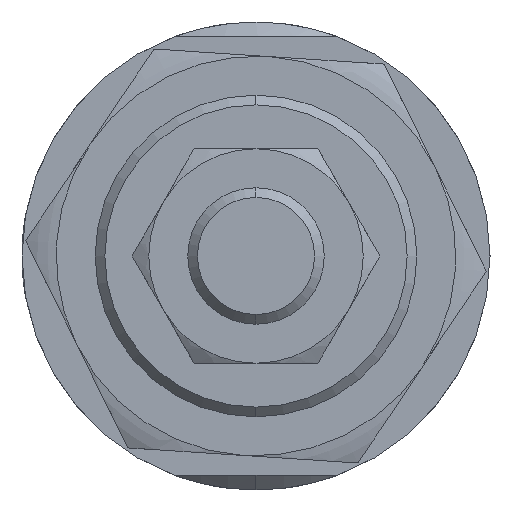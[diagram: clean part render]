
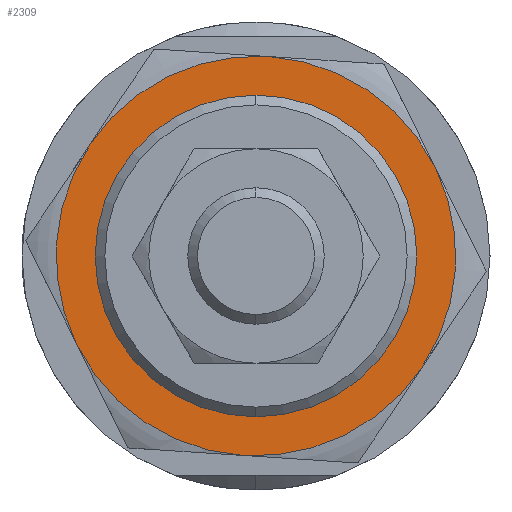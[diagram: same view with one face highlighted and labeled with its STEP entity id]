
A CAD part, left-side view. The second image highlights one B-rep face of the part: STEP entity #2309.
In plain terms, the highlighted planar face has unit normal (-1, 0, 0) as drawn and (0, 0, -1) by its records, which use the part's own axes.
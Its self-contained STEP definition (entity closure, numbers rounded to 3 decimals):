
#35 = EDGE_LOOP ( 'NONE', ( #1514, #620 ) ) ;
#42 = CARTESIAN_POINT ( 'NONE',  ( -15.5, 0., -5.5 ) ) ;
#47 = CARTESIAN_POINT ( 'NONE',  ( 15.5, 0., -5.5 ) ) ;
#100 = VERTEX_POINT ( 'NONE', #2006 ) ;
#140 = ORIENTED_EDGE ( 'NONE', *, *, #1425, .F. ) ;
#217 = DIRECTION ( 'NONE',  ( 0., 0., 1. ) ) ;
#291 = AXIS2_PLACEMENT_3D ( 'NONE', #2937, #1874, #2588 ) ;
#450 = DIRECTION ( 'NONE',  ( 0., 0., 1. ) ) ;
#469 = AXIS2_PLACEMENT_3D ( 'NONE', #631, #450, #2542 ) ;
#476 = EDGE_CURVE ( 'NONE', #1783, #1816, #938, .T. ) ;
#520 = CIRCLE ( 'NONE', #893, 20.5 ) ;
#529 = CIRCLE ( 'NONE', #3352, 20.5 ) ;
#534 = DIRECTION ( 'NONE',  ( 1., 0., 0. ) ) ;
#586 = PLANE ( 'NONE',  #2820 ) ;
#611 = CARTESIAN_POINT ( 'NONE',  ( 0., 0., -5.5 ) ) ;
#620 = ORIENTED_EDGE ( 'NONE', *, *, #476, .T. ) ;
#631 = CARTESIAN_POINT ( 'NONE',  ( 0., 0., -5.5 ) ) ;
#641 = CARTESIAN_POINT ( 'NONE',  ( -10.25, -17.754, -5.5 ) ) ;
#643 = DIRECTION ( 'NONE',  ( 0., 0., 1. ) ) ;
#651 = EDGE_CURVE ( 'NONE', #1816, #1783, #709, .T. ) ;
#653 = DIRECTION ( 'NONE',  ( 1., 0., 0. ) ) ;
#709 = CIRCLE ( 'NONE', #291, 15.5 ) ;
#739 = DIRECTION ( 'NONE',  ( 1., 0., 0. ) ) ;
#745 = CARTESIAN_POINT ( 'NONE',  ( 10.25, -17.754, -5.5 ) ) ;
#823 = DIRECTION ( 'NONE',  ( 0., 0., 1. ) ) ;
#833 = DIRECTION ( 'NONE',  ( 0., 0., 1. ) ) ;
#891 = CARTESIAN_POINT ( 'NONE',  ( 0., 0., -5.5 ) ) ;
#893 = AXIS2_PLACEMENT_3D ( 'NONE', #3196, #823, #653 ) ;
#927 = EDGE_CURVE ( 'NONE', #1307, #100, #1915, .T. ) ;
#938 = CIRCLE ( 'NONE', #469, 15.5 ) ;
#964 = CIRCLE ( 'NONE', #1007, 20.5 ) ;
#984 = VERTEX_POINT ( 'NONE', #641 ) ;
#1007 = AXIS2_PLACEMENT_3D ( 'NONE', #1862, #833, #3261 ) ;
#1051 = DIRECTION ( 'NONE',  ( 0., 0., 1. ) ) ;
#1103 = FACE_OUTER_BOUND ( 'NONE', #1675, .T. ) ;
#1198 = VERTEX_POINT ( 'NONE', #745 ) ;
#1263 = EDGE_CURVE ( 'NONE', #100, #984, #520, .T. ) ;
#1307 = VERTEX_POINT ( 'NONE', #2630 ) ;
#1322 = CARTESIAN_POINT ( 'NONE',  ( 10.25, 17.754, -5.5 ) ) ;
#1395 = ORIENTED_EDGE ( 'NONE', *, *, #2134, .F. ) ;
#1425 = EDGE_CURVE ( 'NONE', #1873, #1599, #529, .T. ) ;
#1514 = ORIENTED_EDGE ( 'NONE', *, *, #651, .T. ) ;
#1539 = CARTESIAN_POINT ( 'NONE',  ( 20.5, 0., -5.5 ) ) ;
#1599 = VERTEX_POINT ( 'NONE', #1322 ) ;
#1675 = EDGE_LOOP ( 'NONE', ( #140, #1756, #1395, #2551, #1884, #2084 ) ) ;
#1678 = CARTESIAN_POINT ( 'NONE',  ( 0., 0., -5.5 ) ) ;
#1756 = ORIENTED_EDGE ( 'NONE', *, *, #1972, .F. ) ;
#1783 = VERTEX_POINT ( 'NONE', #42 ) ;
#1798 = AXIS2_PLACEMENT_3D ( 'NONE', #1678, #643, #2906 ) ;
#1816 = VERTEX_POINT ( 'NONE', #47 ) ;
#1862 = CARTESIAN_POINT ( 'NONE',  ( 0., 0., -5.5 ) ) ;
#1873 = VERTEX_POINT ( 'NONE', #1539 ) ;
#1874 = DIRECTION ( 'NONE',  ( 0., 0., 1. ) ) ;
#1884 = ORIENTED_EDGE ( 'NONE', *, *, #927, .F. ) ;
#1915 = CIRCLE ( 'NONE', #2257, 20.5 ) ;
#1919 = FACE_BOUND ( 'NONE', #35, .T. ) ;
#1936 = DIRECTION ( 'NONE',  ( 1., 0., 0. ) ) ;
#1972 = EDGE_CURVE ( 'NONE', #1198, #1873, #3137, .T. ) ;
#2006 = CARTESIAN_POINT ( 'NONE',  ( -20.5, 0., -5.5 ) ) ;
#2084 = ORIENTED_EDGE ( 'NONE', *, *, #3251, .F. ) ;
#2091 = AXIS2_PLACEMENT_3D ( 'NONE', #891, #2826, #2928 ) ;
#2112 = CARTESIAN_POINT ( 'NONE',  ( 0., 0., -5.5 ) ) ;
#2134 = EDGE_CURVE ( 'NONE', #984, #1198, #2372, .T. ) ;
#2257 = AXIS2_PLACEMENT_3D ( 'NONE', #2112, #217, #739 ) ;
#2309 = ADVANCED_FACE ( 'NONE', ( #1919, #1103 ), #586, .F. ) ;
#2372 = CIRCLE ( 'NONE', #1798, 20.5 ) ;
#2509 = CARTESIAN_POINT ( 'NONE',  ( 0., 0., -5.5 ) ) ;
#2542 = DIRECTION ( 'NONE',  ( 1., 0., 0. ) ) ;
#2551 = ORIENTED_EDGE ( 'NONE', *, *, #1263, .F. ) ;
#2588 = DIRECTION ( 'NONE',  ( 1., 0., 0. ) ) ;
#2630 = CARTESIAN_POINT ( 'NONE',  ( -10.25, 17.754, -5.5 ) ) ;
#2820 = AXIS2_PLACEMENT_3D ( 'NONE', #2509, #1051, #534 ) ;
#2826 = DIRECTION ( 'NONE',  ( 0., 0., 1. ) ) ;
#2830 = DIRECTION ( 'NONE',  ( 0., 0., 1. ) ) ;
#2906 = DIRECTION ( 'NONE',  ( 1., 0., 0. ) ) ;
#2928 = DIRECTION ( 'NONE',  ( 1., 0., 0. ) ) ;
#2937 = CARTESIAN_POINT ( 'NONE',  ( 0., 0., -5.5 ) ) ;
#3137 = CIRCLE ( 'NONE', #2091, 20.5 ) ;
#3196 = CARTESIAN_POINT ( 'NONE',  ( 0., 0., -5.5 ) ) ;
#3251 = EDGE_CURVE ( 'NONE', #1599, #1307, #964, .T. ) ;
#3261 = DIRECTION ( 'NONE',  ( 1., 0., 0. ) ) ;
#3352 = AXIS2_PLACEMENT_3D ( 'NONE', #611, #2830, #1936 ) ;
